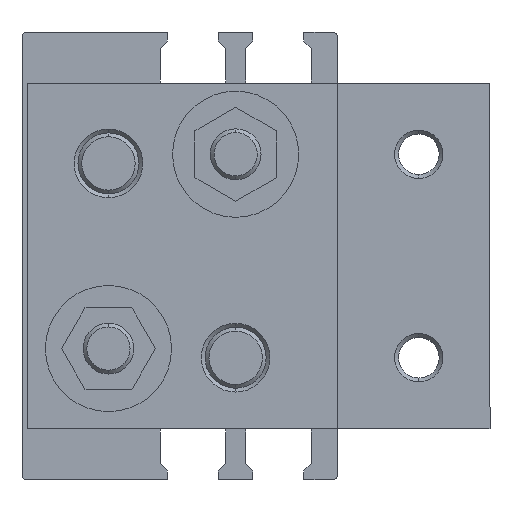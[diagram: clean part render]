
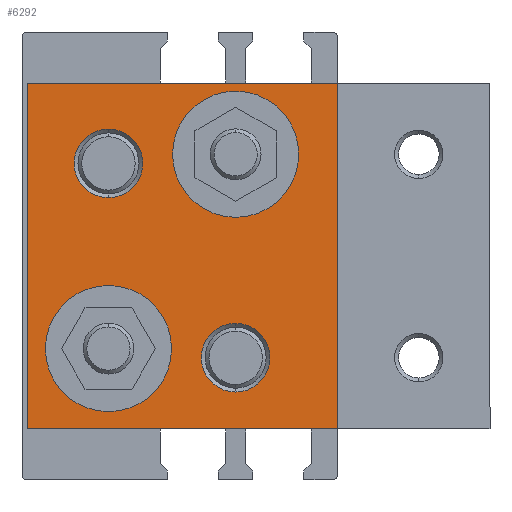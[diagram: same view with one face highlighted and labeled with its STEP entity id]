
A CAD part, left-side view. The second image highlights one B-rep face of the part: STEP entity #6292.
In plain terms, the highlighted planar face has unit normal (-1, 0, 0) as drawn and (1, 0, 0) by its records, which use the part's own axes.
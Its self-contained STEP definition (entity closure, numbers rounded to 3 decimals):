
#25 = CARTESIAN_POINT ( 'NONE',  ( 10., 0., -17. ) ) ;
#84 = VECTOR ( 'NONE', #1052, 1000. ) ;
#97 = CARTESIAN_POINT ( 'NONE',  ( 10., -8., 9.1 ) ) ;
#125 = VERTEX_POINT ( 'NONE', #282 ) ;
#185 = CARTESIAN_POINT ( 'NONE',  ( 10., -8., -9.1 ) ) ;
#282 = CARTESIAN_POINT ( 'NONE',  ( 10., -8., -12.475 ) ) ;
#460 = DIRECTION ( 'NONE',  ( 0., 0., -1. ) ) ;
#507 = DIRECTION ( 'NONE',  ( 0., 0., 1. ) ) ;
#715 = DIRECTION ( 'NONE',  ( 0., 0., -1. ) ) ;
#784 = DIRECTION ( 'NONE',  ( 0., 0., -1. ) ) ;
#919 = ORIENTED_EDGE ( 'NONE', *, *, #7369, .F. ) ;
#965 = CARTESIAN_POINT ( 'NONE',  ( 10., -30.5, 17. ) ) ;
#1052 = DIRECTION ( 'NONE',  ( 0., -1., 0. ) ) ;
#1214 = DIRECTION ( 'NONE',  ( 0., 0., -1. ) ) ;
#1231 = CARTESIAN_POINT ( 'NONE',  ( 10., -30.5, 17. ) ) ;
#1243 = LINE ( 'NONE', #25, #5154 ) ;
#1260 = ORIENTED_EDGE ( 'NONE', *, *, #5656, .F. ) ;
#1347 = EDGE_CURVE ( 'NONE', #5145, #5272, #6647, .T. ) ;
#1355 = CARTESIAN_POINT ( 'NONE',  ( 10., -14.2, 9.1 ) ) ;
#1487 = FACE_BOUND ( 'NONE', #3133, .T. ) ;
#1498 = EDGE_LOOP ( 'NONE', ( #1769, #4131 ) ) ;
#1596 = VERTEX_POINT ( 'NONE', #2686 ) ;
#1678 = LINE ( 'NONE', #6429, #84 ) ;
#1700 = DIRECTION ( 'NONE',  ( 1., 0., 0. ) ) ;
#1723 = CARTESIAN_POINT ( 'NONE',  ( 10., -8., -9.1 ) ) ;
#1740 = CARTESIAN_POINT ( 'NONE',  ( 10., -8., -5.725 ) ) ;
#1769 = ORIENTED_EDGE ( 'NONE', *, *, #1347, .F. ) ;
#1819 = LINE ( 'NONE', #7013, #3762 ) ;
#1918 = AXIS2_PLACEMENT_3D ( 'NONE', #5893, #2323, #6512 ) ;
#1945 = DIRECTION ( 'NONE',  ( 0., 1., 0. ) ) ;
#2141 = CARTESIAN_POINT ( 'NONE',  ( 10., -26.7, -10. ) ) ;
#2227 = VERTEX_POINT ( 'NONE', #4449 ) ;
#2323 = DIRECTION ( 'NONE',  ( 1., 0., 0. ) ) ;
#2384 = CARTESIAN_POINT ( 'NONE',  ( 10., -20.5, 13.375 ) ) ;
#2528 = CIRCLE ( 'NONE', #1918, 3.375 ) ;
#2542 = ORIENTED_EDGE ( 'NONE', *, *, #3730, .T. ) ;
#2609 = VERTEX_POINT ( 'NONE', #2384 ) ;
#2633 = CARTESIAN_POINT ( 'NONE',  ( 10., 0., -17. ) ) ;
#2649 = CARTESIAN_POINT ( 'NONE',  ( 10., -20.5, 6.625 ) ) ;
#2686 = CARTESIAN_POINT ( 'NONE',  ( 10., -30.5, -17. ) ) ;
#2707 = CARTESIAN_POINT ( 'NONE',  ( 10., -20.5, -10. ) ) ;
#2749 = VECTOR ( 'NONE', #715, 1000. ) ;
#2842 = LINE ( 'NONE', #1231, #2749 ) ;
#2848 = CARTESIAN_POINT ( 'NONE',  ( 10., -20.5, -10. ) ) ;
#2868 = AXIS2_PLACEMENT_3D ( 'NONE', #2707, #6914, #3313 ) ;
#2880 = PLANE ( 'NONE',  #4021 ) ;
#2882 = FACE_BOUND ( 'NONE', #4499, .T. ) ;
#2905 = CARTESIAN_POINT ( 'NONE',  ( 10., 0., 17. ) ) ;
#2915 = AXIS2_PLACEMENT_3D ( 'NONE', #7659, #4040, #460 ) ;
#2973 = EDGE_CURVE ( 'NONE', #7728, #1596, #1243, .T. ) ;
#3109 = DIRECTION ( 'NONE',  ( 0., -1., 0. ) ) ;
#3133 = EDGE_LOOP ( 'NONE', ( #4787, #1260 ) ) ;
#3305 = CIRCLE ( 'NONE', #5686, 6.2 ) ;
#3313 = DIRECTION ( 'NONE',  ( 0., 1., 0. ) ) ;
#3337 = EDGE_CURVE ( 'NONE', #5272, #5145, #3305, .T. ) ;
#3368 = EDGE_CURVE ( 'NONE', #4286, #125, #3771, .T. ) ;
#3449 = DIRECTION ( 'NONE',  ( 0., 1., 0. ) ) ;
#3473 = CIRCLE ( 'NONE', #4996, 3.375 ) ;
#3489 = CARTESIAN_POINT ( 'NONE',  ( 10., -30.5, 17. ) ) ;
#3730 = EDGE_CURVE ( 'NONE', #7728, #6937, #1819, .T. ) ;
#3762 = VECTOR ( 'NONE', #6443, 1000. ) ;
#3771 = CIRCLE ( 'NONE', #6524, 3.375 ) ;
#4021 = AXIS2_PLACEMENT_3D ( 'NONE', #3489, #7081, #507 ) ;
#4040 = DIRECTION ( 'NONE',  ( 1., 0., 0. ) ) ;
#4131 = ORIENTED_EDGE ( 'NONE', *, *, #3337, .F. ) ;
#4213 = DIRECTION ( 'NONE',  ( 0., 1., 0. ) ) ;
#4222 = AXIS2_PLACEMENT_3D ( 'NONE', #2848, #7068, #3449 ) ;
#4286 = VERTEX_POINT ( 'NONE', #1740 ) ;
#4315 = EDGE_CURVE ( 'NONE', #6175, #1596, #2842, .T. ) ;
#4341 = DIRECTION ( 'NONE',  ( 1., 0., 0. ) ) ;
#4449 = CARTESIAN_POINT ( 'NONE',  ( 10., -14.3, -10. ) ) ;
#4469 = FACE_BOUND ( 'NONE', #7330, .T. ) ;
#4499 = EDGE_LOOP ( 'NONE', ( #4636, #6406 ) ) ;
#4636 = ORIENTED_EDGE ( 'NONE', *, *, #5274, .F. ) ;
#4648 = FACE_OUTER_BOUND ( 'NONE', #6283, .T. ) ;
#4681 = VERTEX_POINT ( 'NONE', #2141 ) ;
#4682 = DIRECTION ( 'NONE',  ( 1., 0., 0. ) ) ;
#4706 = CARTESIAN_POINT ( 'NONE',  ( 10., -8., 9.1 ) ) ;
#4719 = CIRCLE ( 'NONE', #4222, 6.2 ) ;
#4783 = EDGE_CURVE ( 'NONE', #6640, #2609, #5398, .T. ) ;
#4787 = ORIENTED_EDGE ( 'NONE', *, *, #4783, .F. ) ;
#4996 = AXIS2_PLACEMENT_3D ( 'NONE', #185, #4341, #784 ) ;
#5145 = VERTEX_POINT ( 'NONE', #7743 ) ;
#5154 = VECTOR ( 'NONE', #3109, 1000. ) ;
#5272 = VERTEX_POINT ( 'NONE', #1355 ) ;
#5274 = EDGE_CURVE ( 'NONE', #125, #4286, #3473, .T. ) ;
#5398 = CIRCLE ( 'NONE', #2915, 3.375 ) ;
#5449 = EDGE_CURVE ( 'NONE', #2227, #4681, #5503, .T. ) ;
#5503 = CIRCLE ( 'NONE', #2868, 6.2 ) ;
#5656 = EDGE_CURVE ( 'NONE', #2609, #6640, #2528, .T. ) ;
#5686 = AXIS2_PLACEMENT_3D ( 'NONE', #4706, #4682, #4213 ) ;
#5893 = CARTESIAN_POINT ( 'NONE',  ( 10., -20.5, 10. ) ) ;
#6175 = VERTEX_POINT ( 'NONE', #965 ) ;
#6250 = EDGE_CURVE ( 'NONE', #6937, #6175, #1678, .T. ) ;
#6283 = EDGE_LOOP ( 'NONE', ( #2542, #7225, #7772, #7681 ) ) ;
#6292 = ADVANCED_FACE ( 'NONE', ( #4648, #7684, #4469, #1487, #2882 ), #2880, .F. ) ;
#6406 = ORIENTED_EDGE ( 'NONE', *, *, #3368, .F. ) ;
#6429 = CARTESIAN_POINT ( 'NONE',  ( 10., 0., 17. ) ) ;
#6443 = DIRECTION ( 'NONE',  ( 0., 0., 1. ) ) ;
#6458 = ORIENTED_EDGE ( 'NONE', *, *, #5449, .F. ) ;
#6512 = DIRECTION ( 'NONE',  ( 0., 0., -1. ) ) ;
#6524 = AXIS2_PLACEMENT_3D ( 'NONE', #1723, #1700, #1214 ) ;
#6640 = VERTEX_POINT ( 'NONE', #2649 ) ;
#6647 = CIRCLE ( 'NONE', #6658, 6.2 ) ;
#6658 = AXIS2_PLACEMENT_3D ( 'NONE', #97, #7367, #1945 ) ;
#6914 = DIRECTION ( 'NONE',  ( 1., 0., 0. ) ) ;
#6937 = VERTEX_POINT ( 'NONE', #2905 ) ;
#7013 = CARTESIAN_POINT ( 'NONE',  ( 10., 0., 17. ) ) ;
#7068 = DIRECTION ( 'NONE',  ( 1., 0., 0. ) ) ;
#7081 = DIRECTION ( 'NONE',  ( -1., 0., 0. ) ) ;
#7225 = ORIENTED_EDGE ( 'NONE', *, *, #6250, .T. ) ;
#7330 = EDGE_LOOP ( 'NONE', ( #6458, #919 ) ) ;
#7367 = DIRECTION ( 'NONE',  ( 1., 0., 0. ) ) ;
#7369 = EDGE_CURVE ( 'NONE', #4681, #2227, #4719, .T. ) ;
#7659 = CARTESIAN_POINT ( 'NONE',  ( 10., -20.5, 10. ) ) ;
#7681 = ORIENTED_EDGE ( 'NONE', *, *, #2973, .F. ) ;
#7684 = FACE_BOUND ( 'NONE', #1498, .T. ) ;
#7728 = VERTEX_POINT ( 'NONE', #2633 ) ;
#7743 = CARTESIAN_POINT ( 'NONE',  ( 10., -1.8, 9.1 ) ) ;
#7772 = ORIENTED_EDGE ( 'NONE', *, *, #4315, .T. ) ;
